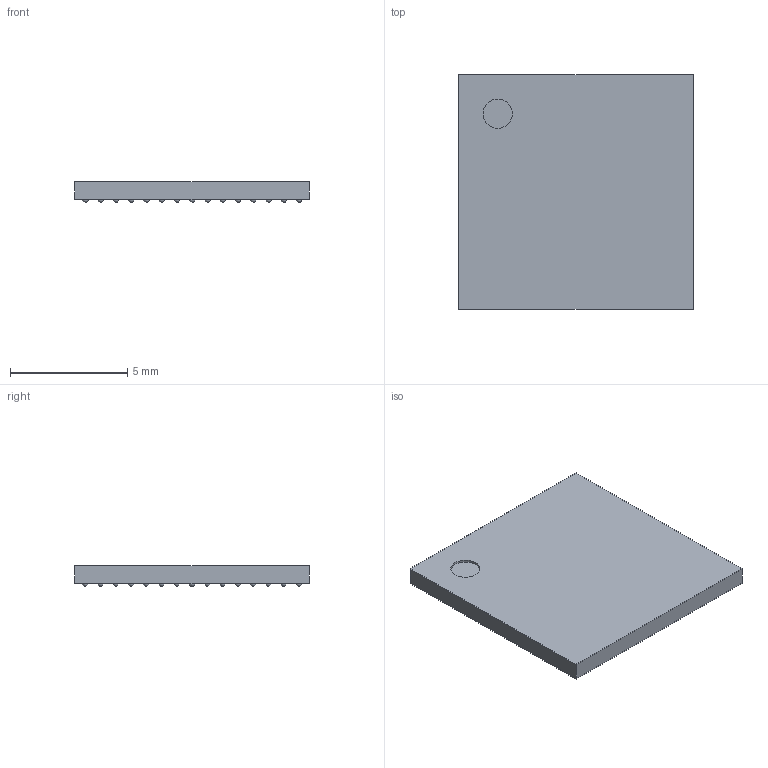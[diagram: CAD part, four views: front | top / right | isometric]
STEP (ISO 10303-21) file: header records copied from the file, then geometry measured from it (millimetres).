
FILE_DESCRIPTION(('Open CASCADE Model'),'2;1');
FILE_NAME('Open CASCADE Shape Model','2022-11-04T16:34:12',('Author'),( 'Open CASCADE'),'Open CASCADE STEP processor 6.8','Open CASCADE 6.8' ,'Unknown');
FILE_SCHEMA(('AUTOMOTIVE_DESIGN { 1 0 10303 214 1 1 1 1 }'));
Length unit declared in the file: millimetre
Products named in the file (5): BGA176C65P15X15_1000X1000X89.step; Open CASCADE STEP translator 6.8 39.1; Body; Open CASCADE STEP translator 6.8 39.2.1; ball
Assembly tree (204 placements, depth 3):
  BGA176C65P15X15_1000X1000X89.step
    Open CASCADE STEP translator 6.8 39.1
    Body
      Open CASCADE STEP translator 6.8 39.2.1
    ball  x201
Bounding box: 10 x 10 x 0.89 mm (x, y, z)
Volume: 77.5 mm3; surface area: 271.5 mm2
Topology: 202 solids, 203 shells, 210 faces, 619 edges, 413 vertices
Faces by surface type: sphere 201, plane 8, cylinder 1
Full cylindrical faces by diameter (mm): 1.25 x1
Entity records: 1947 total; most frequent: DIRECTION 449, CARTESIAN_POINT 243, AXIS2_PLACEMENT_3D 218, PRODUCT_DEFINITION_SHAPE 209, CONTEXT_DEPENDENT_SHAPE_REPRESENTATION 204, ITEM_DEFINED_TRANSFORMATION 204, NEXT_ASSEMBLY_USAGE_OCCURRENCE 204, ORIENTED_EDGE 31
